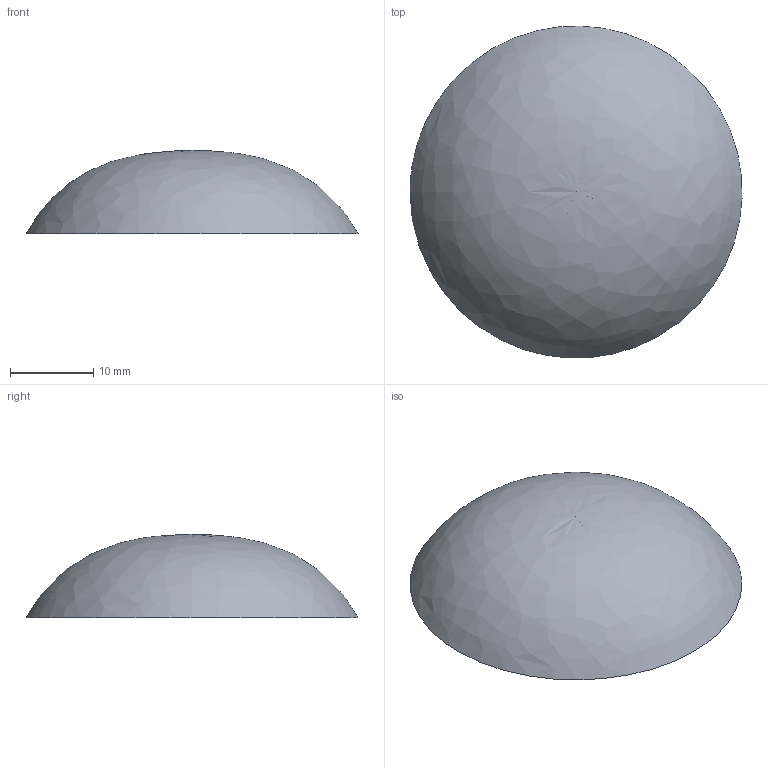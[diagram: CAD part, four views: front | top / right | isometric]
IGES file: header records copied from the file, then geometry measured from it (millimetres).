
Global section: file name: C:\Users\magara\Documents\Rhinoceros\NurbsDemo.igs; native system: Rhinoceros ( Sep 28 2012 ); preprocessor: Trout Lake IGES 012 Sep 28 2012; date: 220328.043051; units: millimetre
Bounding box: 39.99 x 39.97 x 10 mm (x, y, z)
Surface area: 1640.1 mm2 (no closed solid volume)
Topology: 0 solids, 0 shells, 1 faces, 12 edges, 17 vertices
Faces by surface type: bspline 1
